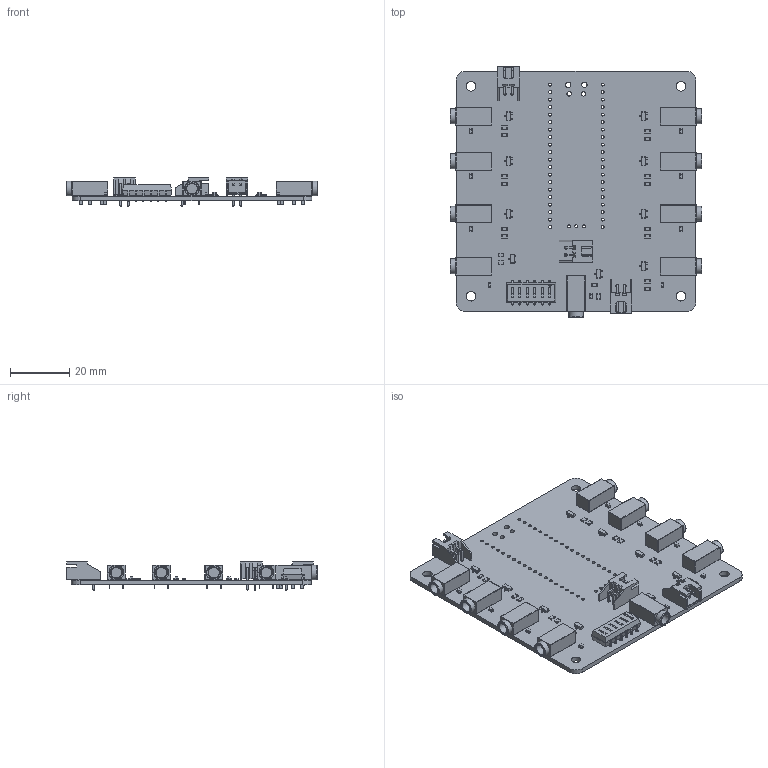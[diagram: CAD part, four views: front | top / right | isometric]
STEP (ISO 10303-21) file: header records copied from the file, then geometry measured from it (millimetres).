
FILE_DESCRIPTION(('KiCad electronic assembly'),'2;1');
FILE_NAME('Kitsune PCB v0.2.1.step','2025-01-02T17:50:26',('Pcbnew'),( 'Kicad'),'Open CASCADE STEP processor 7.8','KiCad to STEP converter' ,'Unknown');
FILE_SCHEMA(('AUTOMOTIVE_DESIGN { 1 0 10303 214 1 1 1 1 }'));
Length unit declared in the file: millimetre
Products named in the file (14): Kitsune PCB v0.2.1 1; PJ-320A; PJ-3200B v1; SOT-23; SOT_23; R_0805_2012Metric; LED_0603_1608Metric; JST_XH_S2B-XH-A_1x02_P2.50mm_Horizontal; JST_S2B_XH_A; SW_DIP_SPSTx06_Slide_6.7x16.8mm_W7.62mm_P2.54mm_LowProfile; SW_DIP_SPSTx06_Slide_67x168mm_W762mm_P254mm_LowProfile; Kitsune PCB v0.2.1_PCB
Assembly tree (56 placements, depth 3):
  Kitsune PCB v0.2.1 1
    PJ-320A  x9
      PJ-3200B v1
    SOT-23  x9
      SOT_23
    R_0805_2012Metric  x18
      R_0805_2012Metric
    LED_0603_1608Metric  x9
      LED_0603_1608Metric
    JST_XH_S2B-XH-A_1x02_P2.50mm_Horizontal  x3
      JST_S2B_XH_A
    SW_DIP_SPSTx06_Slide_6.7x16.8mm_W7.62mm_P2.54mm_LowProfile
      SW_DIP_SPSTx06_Slide_67x168mm_W762mm_P254mm_LowProfile
    Kitsune PCB v0.2.1_PCB
Bounding box: 85.34 x 84.89 x 9.5 mm (x, y, z)
Volume: 14149.8 mm3; surface area: 21072.8 mm2
Topology: 86 solids, 86 shells, 3116 faces, 7834 edges, 4909 vertices
Faces by surface type: plane 1912, cylinder 781, bspline 351, sphere 36, torus 36
Full cylindrical faces by diameter (mm): 0.8 x30, 1 x24, 1.02 x43, 1.5 x2, 1.8 x2, 3.2 x4, 3.6 x9, 5 x9
Entity records: 30565 total; most frequent: CARTESIAN_POINT 4927, ORIENTED_EDGE 4440, DIRECTION 4366, EDGE_CURVE 2220, LINE 1622, VECTOR 1622, VERTEX_POINT 1417, AXIS2_PLACEMENT_3D 1372
